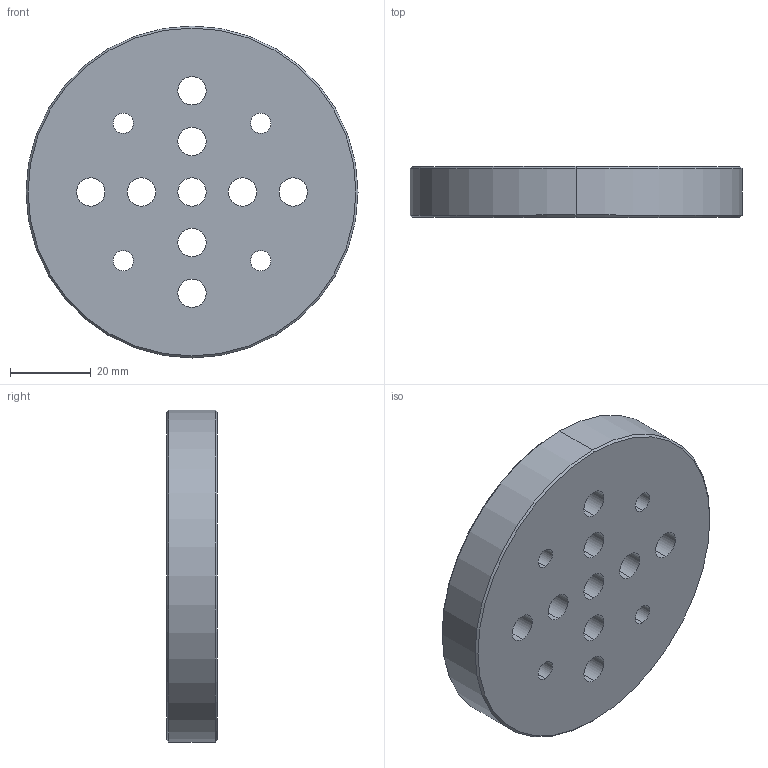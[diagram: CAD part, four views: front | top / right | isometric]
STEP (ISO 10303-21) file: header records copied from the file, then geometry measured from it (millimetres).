
FILE_DESCRIPTION (( 'STEP AP203' ), '1' );
FILE_NAME ('BP-16.step', '2019-05-09T08:55:30', ( '' ), ( '' ), 'SwSTEP 2.0', 'SolidWorks 2016', '' );
FILE_SCHEMA (( 'CONFIG_CONTROL_DESIGN' ));
Length unit declared in the file: millimetre
Products named in the file (1): BP-16
Bounding box: 82 x 12.5 x 82 mm (x, y, z)
Volume: 55936.7 mm3; surface area: 17029.8 mm2
Topology: 1 solids, 1 shells, 61 faces, 146 edges, 96 vertices
Faces by surface type: cylinder 46, plane 11, cone 4
Entity records: 1953 total; most frequent: DIRECTION 366, CARTESIAN_POINT 304, ORIENTED_EDGE 292, AXIS2_PLACEMENT_3D 158, EDGE_CURVE 146, VERTEX_POINT 96, CIRCLE 96, EDGE_LOOP 96
